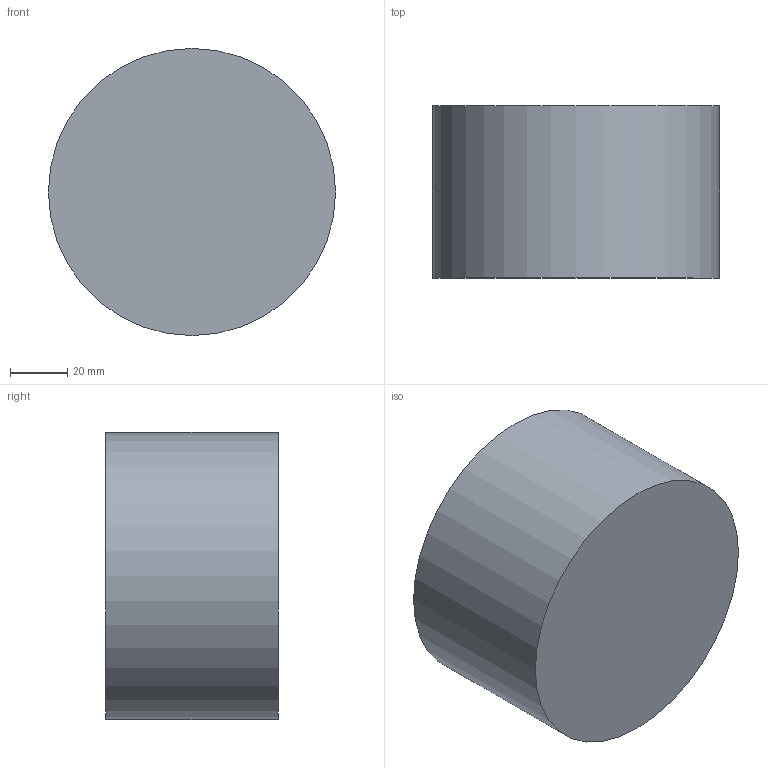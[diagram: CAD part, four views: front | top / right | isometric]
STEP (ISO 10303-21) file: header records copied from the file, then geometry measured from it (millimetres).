
FILE_DESCRIPTION(('Open CASCADE Model'),'2;1');
FILE_NAME('Open CASCADE Shape Model','2026-10-10T15:34:57',('Author'),( 'Open CASCADE'),'Open CASCADE STEP processor 7.9','Open CASCADE 7.9' ,'Unknown');
FILE_SCHEMA(('AUTOMOTIVE_DESIGN { 1 0 10303 214 1 1 1 1 }'));
Length unit declared in the file: millimetre
Products named in the file (1): Open CASCADE STEP translator 7.9 11
Bounding box: 100 x 60 x 100 mm (x, y, z)
Volume: 471238.9 mm3; surface area: 34557.5 mm2
Topology: 1 solids, 1 shells, 3 faces, 3 edges, 2 vertices
Faces by surface type: plane 2, cylinder 1
Full cylindrical faces by diameter (mm): 100 x1
Entity records: 108 total; most frequent: DIRECTION 19, CARTESIAN_POINT 15, AXIS2_PLACEMENT_3D 6, ORIENTED_EDGE 6, PCURVE 6, DEFINITIONAL_REPRESENTATION 6, LINE 5, VECTOR 5
